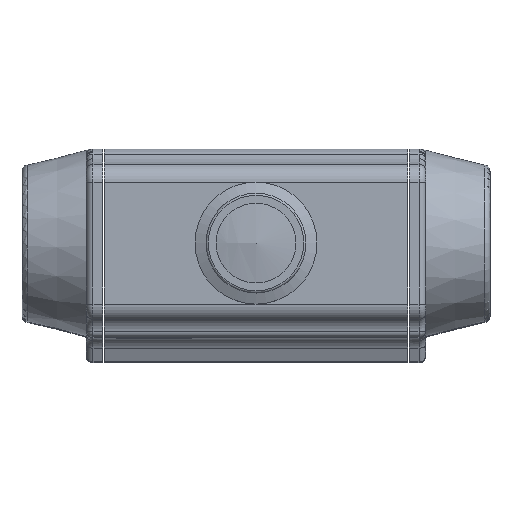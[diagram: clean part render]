
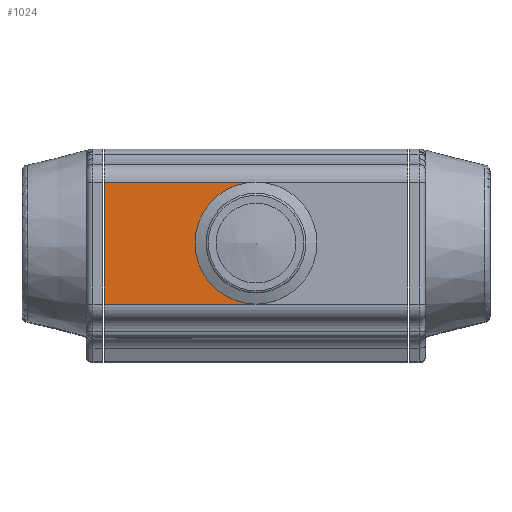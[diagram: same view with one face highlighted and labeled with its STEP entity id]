
A CAD part, top view. The second image highlights one B-rep face of the part: STEP entity #1024.
In plain terms, the highlighted planar face has unit normal (0, 0, 1).
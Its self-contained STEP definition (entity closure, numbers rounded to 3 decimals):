
#1024 = ADVANCED_FACE( '', ( #2353 ), #2354, .T. );
#2353 = FACE_OUTER_BOUND( '', #4434, .T. );
#2354 = PLANE( '', #4435 );
#4434 = EDGE_LOOP( '', ( #8465, #8466, #8467, #8468 ) );
#4435 = AXIS2_PLACEMENT_3D( '', #8469, #8470, #8471 );
#8465 = ORIENTED_EDGE( '', *, *, #12009, .F. );
#8466 = ORIENTED_EDGE( '', *, *, #11313, .T. );
#8467 = ORIENTED_EDGE( '', *, *, #12010, .T. );
#8468 = ORIENTED_EDGE( '', *, *, #11011, .F. );
#8469 = CARTESIAN_POINT( '', ( 68.5, -27.5, 51. ) );
#8470 = DIRECTION( '', ( 0., 0., 1. ) );
#8471 = DIRECTION( '', ( 1., 0., 0. ) );
#11011 = EDGE_CURVE( '', #12772, #12774, #12775, .T. );
#11313 = EDGE_CURVE( '', #13295, #13296, #13297, .T. );
#12009 = EDGE_CURVE( '', #13295, #12772, #14337, .T. );
#12010 = EDGE_CURVE( '', #13296, #12774, #14338, .T. );
#12772 = VERTEX_POINT( '', #15515 );
#12774 = VERTEX_POINT( '', #15517 );
#12775 = LINE( '', #15518, #15519 );
#13295 = VERTEX_POINT( '', #17611 );
#13296 = VERTEX_POINT( '', #17612 );
#13297 = CIRCLE( '', #17613, 27.5 );
#14337 = LINE( '', #20953, #20954 );
#14338 = LINE( '', #20955, #20956 );
#15515 = CARTESIAN_POINT( '', ( -68.5, -27.5, 51. ) );
#15517 = CARTESIAN_POINT( '', ( -68.5, 27.5, 51. ) );
#15518 = CARTESIAN_POINT( '', ( -68.5, -27.5, 51. ) );
#15519 = VECTOR( '', #22249, 1000. );
#17611 = CARTESIAN_POINT( '', ( 0., -27.5, 51. ) );
#17612 = CARTESIAN_POINT( '', ( 0., 27.5, 51. ) );
#17613 = AXIS2_PLACEMENT_3D( '', #22451, #22452, #22453 );
#20953 = CARTESIAN_POINT( '', ( 68.5, -27.5, 51. ) );
#20954 = VECTOR( '', #23227, 1000. );
#20955 = CARTESIAN_POINT( '', ( 68.5, 27.5, 51. ) );
#20956 = VECTOR( '', #23228, 1000. );
#22249 = DIRECTION( '', ( 0., 1., 0. ) );
#22451 = CARTESIAN_POINT( '', ( 0., 0., 51. ) );
#22452 = DIRECTION( '', ( 0., 0., -1. ) );
#22453 = DIRECTION( '', ( -1., 0., 0. ) );
#23227 = DIRECTION( '', ( -1., 0., 0. ) );
#23228 = DIRECTION( '', ( -1., 0., 0. ) );
